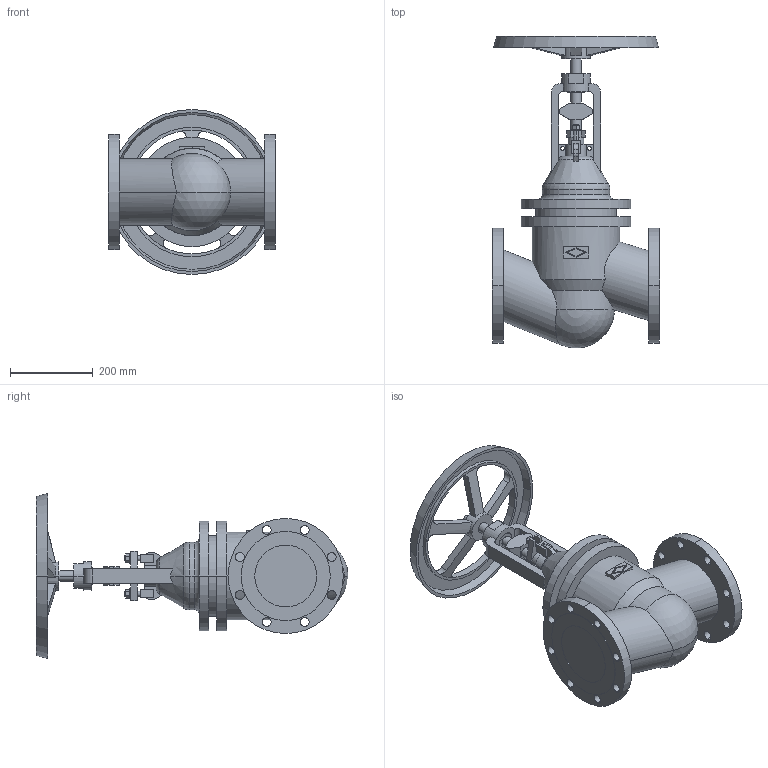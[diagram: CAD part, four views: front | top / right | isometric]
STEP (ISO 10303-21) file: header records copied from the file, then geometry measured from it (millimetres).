
FILE_DESCRIPTION(('OneSpaceDesigner STEP Export'),'2;1');
FILE_NAME('c000004228.stp','2010-04-30T 9:26:52',(''),(''),'OneSpace Designer STEP processor for AP214 (Solid Model)','OneSpace Modeling 15.50B 03-Nov-2007 (C) CoCreate Software GmbH','');
FILE_SCHEMA(('AUTOMOTIVE_DESIGN { 1 0 10303 214 1 1 1 1 }'));
Length unit declared in the file: millimetre
Products named in the file (1): 1
Bounding box: 406 x 755.63 x 400 mm (x, y, z)
Volume: 21655829.1 mm3; surface area: 1066410.8 mm2
Topology: 1 solids, 1 shells, 306 faces, 806 edges, 525 vertices
Faces by surface type: plane 149, cylinder 125, cone 22, torus 8, sphere 2
Entity records: 11877 total; most frequent: CARTESIAN_POINT 2311, ORIENTED_EDGE 1608, DIRECTION 1296, EDGE_CURVE 804, VERTEX_POINT 525, AXIS2_PLACEMENT_3D 439, VECTOR 418, LINE 418
